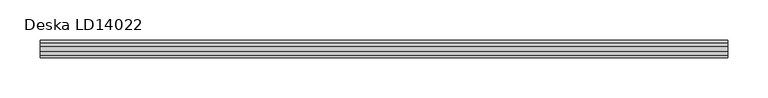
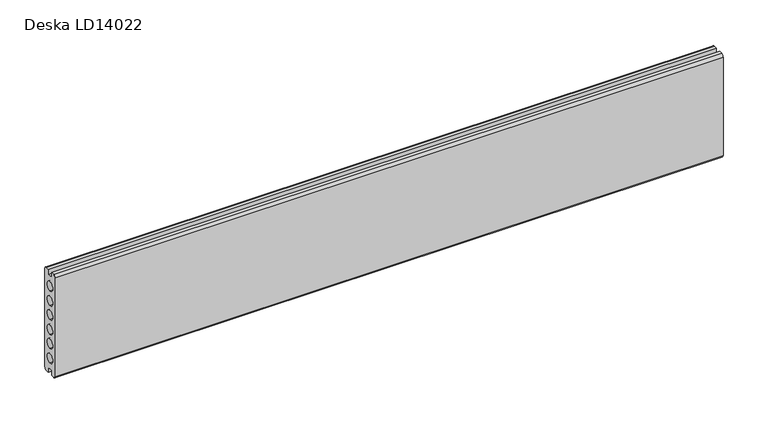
"""IFC4 building model written with IfcOpenShell, lengths in millimetres: proxy geometry, Deska LD14022 : Deska LD14022 pion."""

from ifc_helpers import new_model, si_unit, point, frame, frame_2d, origin, place, context, project, spatial, polyline, circle_curve, trimmed, segment, composite_curve, outline, extrude, source, transform, mapped, element, save


def deska_ld14022_75c34203(model_context):
    return source(origin(), model_context, "Body", "SweptSolid", [
        extrude(outline(composite_curve([segment(polyline([(-7.5, 7.0), (-14.5, 7.0), (-14.5, 0.0), (-19.0, 0.0)]), True, "CONTINUOUS"), segment(trimmed(circle_curve(frame_2d((-19.0, 3.0)), 3.0), [point((-19.0, 0.0))], [point((-22.0, 3.0))], False, "CARTESIAN"), True, "CONTINUOUS"), segment(polyline([(-22.0, 3.0), (-22.0, 137.0)]), True, "CONTINUOUS"), segment(trimmed(circle_curve(frame_2d((-19.0, 137.0)), 3.0), [point((-22.0, 137.0))], [point((-19.0, 140.0))], False, "CARTESIAN"), True, "CONTINUOUS"), segment(polyline([(-19.0, 140.0), (-14.5, 140.0), (-14.5, 133.0), (-7.5, 133.0), (-7.5, 140.0), (-3.0, 140.0)]), True, "CONTINUOUS"), segment(trimmed(circle_curve(frame_2d((-3.0, 137.0)), 3.0), [point((-3.0, 140.0))], [point((0.0, 137.0))], False, "CARTESIAN"), True, "CONTINUOUS"), segment(polyline([(0.0, 137.0), (0.0, 3.0)]), True, "CONTINUOUS"), segment(trimmed(circle_curve(frame_2d((-3.0, 3.0)), 3.0), [point((0.0, 3.0))], [point((-3.0, 0.0))], False, "CARTESIAN"), True, "CONTINUOUS"), segment(polyline([(-3.0, 0.0), (-7.5, 0.0), (-7.5, 7.0)]), True, "CONTINUOUS")], self_intersect=False), holes=[composite_curve([segment(trimmed(circle_curve(frame_2d((-11.0, 21.0)), 6.0), [point((-11.0, 27.0))], [point((-11.0, 15.0))], True, "CARTESIAN"), True, "CONTINUOUS"), segment(trimmed(circle_curve(frame_2d((-11.0, 21.0)), 6.0), [point((-11.0, 15.0))], [point((-11.0, 27.0))], True, "CARTESIAN"), True, "CONTINUOUS")], self_intersect=False), composite_curve([segment(trimmed(circle_curve(frame_2d((-11.0, 41.0)), 6.0), [point((-11.0, 47.0))], [point((-11.0, 35.0))], True, "CARTESIAN"), True, "CONTINUOUS"), segment(trimmed(circle_curve(frame_2d((-11.0, 41.0)), 6.0), [point((-11.0, 35.0))], [point((-11.0, 47.0))], True, "CARTESIAN"), True, "CONTINUOUS")], self_intersect=False), composite_curve([segment(trimmed(circle_curve(frame_2d((-11.0, 60.0)), 6.0), [point((-11.0, 66.0))], [point((-11.0, 54.0))], True, "CARTESIAN"), True, "CONTINUOUS"), segment(trimmed(circle_curve(frame_2d((-11.0, 60.0)), 6.0), [point((-11.0, 54.0))], [point((-11.0, 66.0))], True, "CARTESIAN"), True, "CONTINUOUS")], self_intersect=False), composite_curve([segment(trimmed(circle_curve(frame_2d((-11.0, 80.0)), 6.0), [point((-11.0, 86.0))], [point((-11.0, 74.0))], True, "CARTESIAN"), True, "CONTINUOUS"), segment(trimmed(circle_curve(frame_2d((-11.0, 80.0)), 6.0), [point((-11.0, 74.0))], [point((-11.0, 86.0))], True, "CARTESIAN"), True, "CONTINUOUS")], self_intersect=False), composite_curve([segment(trimmed(circle_curve(frame_2d((-11.0, 99.0)), 6.0), [point((-11.0, 105.0))], [point((-11.0, 93.0))], True, "CARTESIAN"), True, "CONTINUOUS"), segment(trimmed(circle_curve(frame_2d((-11.0, 99.0)), 6.0), [point((-11.0, 93.0))], [point((-11.0, 105.0))], True, "CARTESIAN"), True, "CONTINUOUS")], self_intersect=False), composite_curve([segment(trimmed(circle_curve(frame_2d((-11.0, 119.0)), 6.0), [point((-11.0, 125.0))], [point((-11.0, 113.0))], True, "CARTESIAN"), True, "CONTINUOUS"), segment(trimmed(circle_curve(frame_2d((-11.0, 119.0)), 6.0), [point((-11.0, 113.0))], [point((-11.0, 125.0))], True, "CARTESIAN"), True, "CONTINUOUS")], self_intersect=False)]), frame((0.0, 0.0, 0.0), z_axis=(1.0, 0.0, 0.0), x_axis=(0.0, 1.0, 0.0)), (0.0, 0.0, 1.0), 857.3106056),
    ])


if __name__ == "__main__":
    model = new_model("IFC4")
    model_context = context("Model", 3, world=origin())
    ifc_project = project(units=[si_unit("LENGTHUNIT", "METRE", prefix="MILLI")], contexts=[model_context])
    site = spatial("IfcSite", under=ifc_project)
    building = spatial("IfcBuilding", under=site)
    placement = place(None, origin())
    deska_ld14022_shape = deska_ld14022_75c34203(model_context)
    element("IfcBuildingElementProxy", 1, Name="Deska LD14022 : Deska LD14022 pion", ObjectType="Deska LD14022 : Deska LD14022 pion", at=placement, inside=building, context=model_context, shape_type="MappedRepresentation", body=[
        mapped(deska_ld14022_shape, transform((0.0, 0.0, 0.0), x_axis=(1.0, 0.0, 0.0), y_axis=(0.0, 1.0, 0.0), z_axis=(0.0, 0.0, 1.0))),
    ])
    save(model, "model.ifc")
